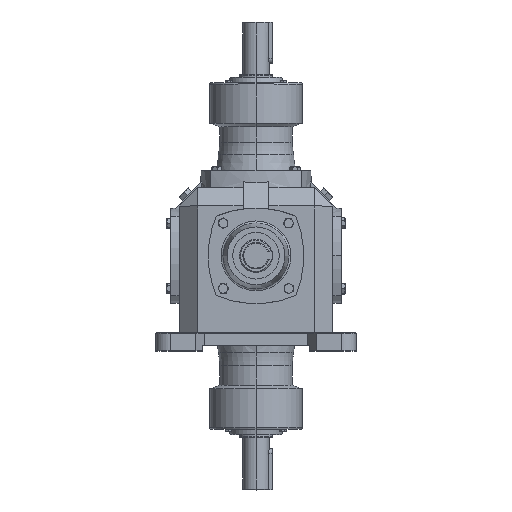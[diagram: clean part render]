
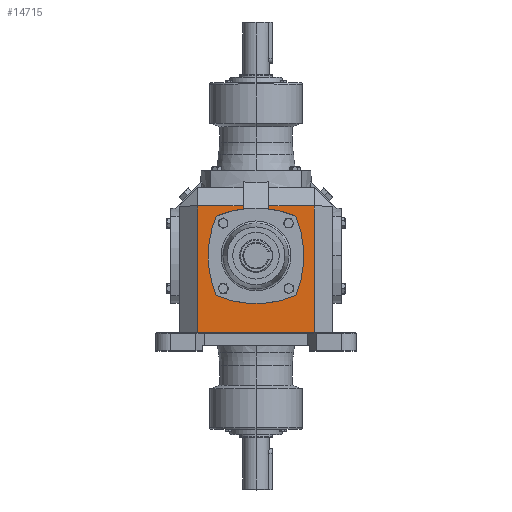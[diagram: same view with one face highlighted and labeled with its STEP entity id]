
A CAD part, top view. The second image highlights one B-rep face of the part: STEP entity #14715.
In plain terms, the highlighted planar face has unit normal (0, 0, 1).
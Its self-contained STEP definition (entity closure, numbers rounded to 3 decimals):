
#253 = CARTESIAN_POINT ( 'NONE',  ( -37.663, 37.663, 72.9 ) ) ;
#967 = EDGE_CURVE ( 'NONE', #10571, #8776, #1344, .T. ) ;
#1344 = LINE ( 'NONE', #18151, #15305 ) ;
#1449 = CARTESIAN_POINT ( 'NONE',  ( 0., -51.072, 72.9 ) ) ;
#1487 = ORIENTED_EDGE ( 'NONE', *, *, #19386, .T. ) ;
#1638 = VECTOR ( 'NONE', #16765, 1000. ) ;
#1877 = VECTOR ( 'NONE', #3091, 1000. ) ;
#2037 = ORIENTED_EDGE ( 'NONE', *, *, #19171, .T. ) ;
#2474 = VECTOR ( 'NONE', #19732, 1000. ) ;
#2757 = DIRECTION ( 'NONE',  ( 1., 0., 0. ) ) ;
#2908 = VECTOR ( 'NONE', #20157, 1000. ) ;
#3091 = DIRECTION ( 'NONE',  ( 0., 1., 0. ) ) ;
#3100 = CARTESIAN_POINT ( 'NONE',  ( -55.426, -73., 72.9 ) ) ;
#3131 = VERTEX_POINT ( 'NONE', #4664 ) ;
#3325 = VERTEX_POINT ( 'NONE', #4041 ) ;
#3988 = ORIENTED_EDGE ( 'NONE', *, *, #18765, .T. ) ;
#4041 = CARTESIAN_POINT ( 'NONE',  ( -12.232, 47.326, 72.9 ) ) ;
#4113 = CARTESIAN_POINT ( 'NONE',  ( -12.232, 44.546, 72.9 ) ) ;
#4664 = CARTESIAN_POINT ( 'NONE',  ( 55.426, -73., 72.9 ) ) ;
#4805 = CARTESIAN_POINT ( 'NONE',  ( -72.9, 47.326, 72.9 ) ) ;
#5139 = CARTESIAN_POINT ( 'NONE',  ( -72.9, 64.8, 72.9 ) ) ;
#5327 = EDGE_CURVE ( 'NONE', #20276, #8776, #12674, .T. ) ;
#5609 = DIRECTION ( 'NONE',  ( 0., 0., 1. ) ) ;
#5763 = DIRECTION ( 'NONE',  ( 0., -1., 0. ) ) ;
#5889 = LINE ( 'NONE', #15167, #1638 ) ;
#5927 = LINE ( 'NONE', #19775, #12649 ) ;
#5948 = DIRECTION ( 'NONE',  ( 0., 0., 1. ) ) ;
#6039 = CIRCLE ( 'NONE', #11910, 96.398 ) ;
#6304 = EDGE_CURVE ( 'NONE', #17210, #19125, #10968, .T. ) ;
#6381 = CARTESIAN_POINT ( 'NONE',  ( -12.232, 64.8, 72.9 ) ) ;
#6538 = VERTEX_POINT ( 'NONE', #4113 ) ;
#7133 = EDGE_CURVE ( 'NONE', #8783, #15967, #17076, .T. ) ;
#7464 = ORIENTED_EDGE ( 'NONE', *, *, #7133, .T. ) ;
#7522 = VERTEX_POINT ( 'NONE', #17456 ) ;
#7676 = ORIENTED_EDGE ( 'NONE', *, *, #10429, .T. ) ;
#7796 = FACE_OUTER_BOUND ( 'NONE', #9131, .T. ) ;
#8231 = PLANE ( 'NONE',  #14922 ) ;
#8514 = DIRECTION ( 'NONE',  ( -1., 0., 0. ) ) ;
#8585 = CARTESIAN_POINT ( 'NONE',  ( 37.663, 37.663, 72.9 ) ) ;
#8776 = VERTEX_POINT ( 'NONE', #20314 ) ;
#8783 = VERTEX_POINT ( 'NONE', #15854 ) ;
#8804 = AXIS2_PLACEMENT_3D ( 'NONE', #15251, #8980, #2757 ) ;
#8847 = DIRECTION ( 'NONE',  ( 1., 0., 0. ) ) ;
#8980 = DIRECTION ( 'NONE',  ( 0., 0., 1. ) ) ;
#8991 = CARTESIAN_POINT ( 'NONE',  ( 51.072, 0., 72.9 ) ) ;
#9068 = DIRECTION ( 'NONE',  ( 0., -1., 0. ) ) ;
#9131 = EDGE_LOOP ( 'NONE', ( #13399, #2037, #14543, #7464, #3988, #7676, #1487, #13839, #19853, #15750, #18726, #15564, #18539 ) ) ;
#9251 = DIRECTION ( 'NONE',  ( 0., 1., 0. ) ) ;
#9273 = EDGE_CURVE ( 'NONE', #6538, #11299, #12923, .T. ) ;
#9522 = DIRECTION ( 'NONE',  ( 0., 0., 1. ) ) ;
#9881 = EDGE_CURVE ( 'NONE', #18267, #20276, #17586, .T. ) ;
#10030 = EDGE_CURVE ( 'NONE', #3325, #8783, #20528, .T. ) ;
#10388 = CARTESIAN_POINT ( 'NONE',  ( 0., 51.072, 72.9 ) ) ;
#10429 = EDGE_CURVE ( 'NONE', #3131, #7522, #5927, .T. ) ;
#10571 = VERTEX_POINT ( 'NONE', #14177 ) ;
#10694 = VECTOR ( 'NONE', #9068, 1000. ) ;
#10968 = CIRCLE ( 'NONE', #12995, 96.398 ) ;
#11299 = VERTEX_POINT ( 'NONE', #253 ) ;
#11589 = DIRECTION ( 'NONE',  ( 0., 0., 1. ) ) ;
#11910 = AXIS2_PLACEMENT_3D ( 'NONE', #8991, #5948, #20051 ) ;
#11979 = CARTESIAN_POINT ( 'NONE',  ( -72.9, -73., 72.9 ) ) ;
#12238 = CARTESIAN_POINT ( 'NONE',  ( -55.426, 64.8, 72.9 ) ) ;
#12649 = VECTOR ( 'NONE', #9251, 1000. ) ;
#12674 = CIRCLE ( 'NONE', #17728, 96.398 ) ;
#12923 = CIRCLE ( 'NONE', #16542, 96.398 ) ;
#12995 = AXIS2_PLACEMENT_3D ( 'NONE', #16292, #11589, #13022 ) ;
#13022 = DIRECTION ( 'NONE',  ( 1., 0., 0. ) ) ;
#13361 = DIRECTION ( 'NONE',  ( 1., 0., 0. ) ) ;
#13399 = ORIENTED_EDGE ( 'NONE', *, *, #9273, .F. ) ;
#13405 = AXIS2_PLACEMENT_3D ( 'NONE', #10388, #5609, #8847 ) ;
#13839 = ORIENTED_EDGE ( 'NONE', *, *, #967, .T. ) ;
#14177 = CARTESIAN_POINT ( 'NONE',  ( 12.232, 47.326, 72.9 ) ) ;
#14543 = ORIENTED_EDGE ( 'NONE', *, *, #10030, .T. ) ;
#14715 = ADVANCED_FACE ( 'NONE', ( #7796 ), #8231, .F. ) ;
#14922 = AXIS2_PLACEMENT_3D ( 'NONE', #5139, #16318, #8514 ) ;
#15028 = CARTESIAN_POINT ( 'NONE',  ( 37.663, -37.663, 72.9 ) ) ;
#15167 = CARTESIAN_POINT ( 'NONE',  ( -72.9, 47.326, 72.9 ) ) ;
#15243 = CARTESIAN_POINT ( 'NONE',  ( 0., -51.072, 72.9 ) ) ;
#15251 = CARTESIAN_POINT ( 'NONE',  ( -51.072, 0., 72.9 ) ) ;
#15305 = VECTOR ( 'NONE', #5763, 1000. ) ;
#15460 = CARTESIAN_POINT ( 'NONE',  ( -37.663, -37.663, 72.9 ) ) ;
#15525 = EDGE_CURVE ( 'NONE', #11299, #17210, #6039, .T. ) ;
#15564 = ORIENTED_EDGE ( 'NONE', *, *, #6304, .F. ) ;
#15750 = ORIENTED_EDGE ( 'NONE', *, *, #9881, .F. ) ;
#15854 = CARTESIAN_POINT ( 'NONE',  ( -55.426, 47.326, 72.9 ) ) ;
#15967 = VERTEX_POINT ( 'NONE', #3100 ) ;
#16292 = CARTESIAN_POINT ( 'NONE',  ( 51.072, 0., 72.9 ) ) ;
#16318 = DIRECTION ( 'NONE',  ( 0., 0., -1. ) ) ;
#16542 = AXIS2_PLACEMENT_3D ( 'NONE', #15243, #18052, #13361 ) ;
#16765 = DIRECTION ( 'NONE',  ( -1., 0., 0. ) ) ;
#16815 = CIRCLE ( 'NONE', #13405, 96.398 ) ;
#16827 = CARTESIAN_POINT ( 'NONE',  ( -45.326, 0., 72.9 ) ) ;
#17076 = LINE ( 'NONE', #12238, #10694 ) ;
#17210 = VERTEX_POINT ( 'NONE', #16827 ) ;
#17456 = CARTESIAN_POINT ( 'NONE',  ( 55.426, 47.326, 72.9 ) ) ;
#17586 = CIRCLE ( 'NONE', #8804, 96.398 ) ;
#17728 = AXIS2_PLACEMENT_3D ( 'NONE', #1449, #9522, #20506 ) ;
#18020 = LINE ( 'NONE', #6381, #1877 ) ;
#18052 = DIRECTION ( 'NONE',  ( 0., 0., 1. ) ) ;
#18151 = CARTESIAN_POINT ( 'NONE',  ( 12.232, 64.8, 72.9 ) ) ;
#18267 = VERTEX_POINT ( 'NONE', #15028 ) ;
#18539 = ORIENTED_EDGE ( 'NONE', *, *, #15525, .F. ) ;
#18726 = ORIENTED_EDGE ( 'NONE', *, *, #19678, .F. ) ;
#18765 = EDGE_CURVE ( 'NONE', #15967, #3131, #19996, .T. ) ;
#19125 = VERTEX_POINT ( 'NONE', #15460 ) ;
#19171 = EDGE_CURVE ( 'NONE', #6538, #3325, #18020, .T. ) ;
#19386 = EDGE_CURVE ( 'NONE', #7522, #10571, #5889, .T. ) ;
#19678 = EDGE_CURVE ( 'NONE', #19125, #18267, #16815, .T. ) ;
#19732 = DIRECTION ( 'NONE',  ( -1., 0., 0. ) ) ;
#19775 = CARTESIAN_POINT ( 'NONE',  ( 55.426, 64.8, 72.9 ) ) ;
#19853 = ORIENTED_EDGE ( 'NONE', *, *, #5327, .F. ) ;
#19996 = LINE ( 'NONE', #11979, #2908 ) ;
#20051 = DIRECTION ( 'NONE',  ( 1., 0., 0. ) ) ;
#20157 = DIRECTION ( 'NONE',  ( 1., 0., 0. ) ) ;
#20276 = VERTEX_POINT ( 'NONE', #8585 ) ;
#20314 = CARTESIAN_POINT ( 'NONE',  ( 12.232, 44.546, 72.9 ) ) ;
#20506 = DIRECTION ( 'NONE',  ( 1., 0., 0. ) ) ;
#20528 = LINE ( 'NONE', #4805, #2474 ) ;
